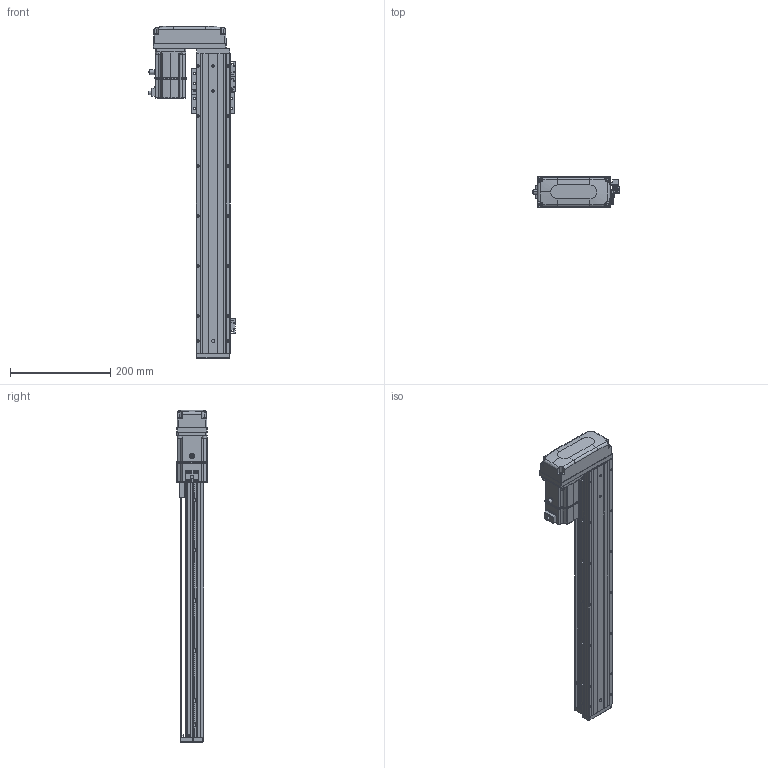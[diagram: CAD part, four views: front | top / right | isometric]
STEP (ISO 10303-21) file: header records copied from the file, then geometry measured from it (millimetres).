
FILE_DESCRIPTION (( 'STEP AP203' ), '1' );
FILE_NAME ('KTHAL60-450-BR-M20-C4L.step', '2022-12-16T02:15:26', ( '微软用户' ), ( '微软中国' ), 'SwSTEP 2.0', 'SolidWorks 2020', '' );
FILE_SCHEMA (( 'CONFIG_CONTROL_DESIGN' ));
Length unit declared in the file: millimetre
Products named in the file (17): GBT77-2000M3-3; GB¨uT 70.2-M3¡Á5_M3¡Á6; GBT 70.1-M3℅6; GBT 70.3-M3℅6; CTHA60-016; EE_SX911P_R; _X2_4E0983F1_X0_200W_1; KTHA60-001_600; CTHA60-017; CTHA60-015-4_CTHA60-015-4; KTHLA60-002; CTHA60-021; GTH80-026; KTHA60-004; GBT 70.1-M4×16; KTHAL60-450-BR-M20-C4L; KTHA60-005
Assembly tree (45 placements, depth 2):
  KTHAL60-450-BR-M20-C4L
    KTHA60-001_600
    KTHLA60-002
    KTHA60-004
    KTHA60-005
    GB¨uT 70.2-M3¡Á5_M3¡Á6  x5
    GBT 70.3-M3℅6  x4
    EE_SX911P_R  x3
    CTHA60-017  x3
    CTHA60-021  x2
    GBT 70.1-M4×16  x8
    GBT77-2000M3-3  x6
    GBT 70.1-M3℅6  x6
    CTHA60-016
    _X2_4E0983F1_X0_200W_1
    CTHA60-015-4_CTHA60-015-4
    GTH80-026
Bounding box: 173.02 x 62.42 x 664 mm (x, y, z)
Volume: 1841169.3 mm3; surface area: 391243 mm2
Topology: 48 solids, 48 shells, 2351 faces, 5604 edges, 3445 vertices
Faces by surface type: plane 1259, cylinder 623, cone 270, bspline 103, torus 82, sphere 14
Entity records: 45893 total; most frequent: CARTESIAN_POINT 10266, DIRECTION 6921, ORIENTED_EDGE 6832, EDGE_CURVE 3416, AXIS2_PLACEMENT_3D 2384, VECTOR 2153, LINE 2153, VERTEX_POINT 2129
